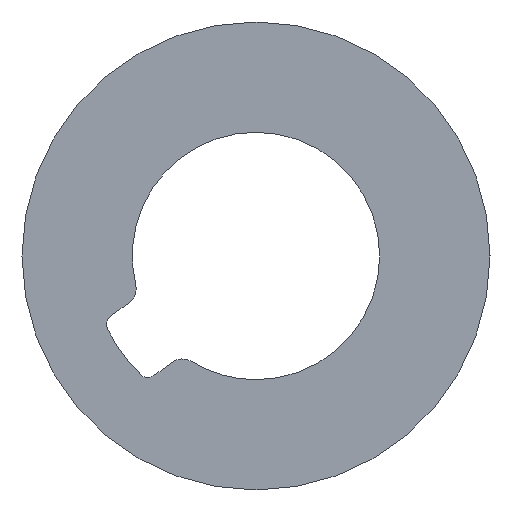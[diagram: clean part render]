
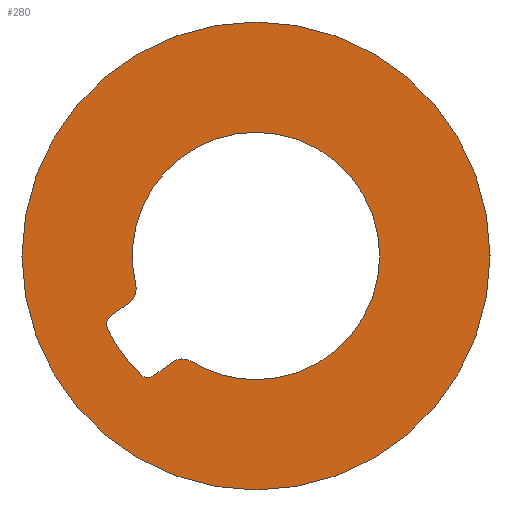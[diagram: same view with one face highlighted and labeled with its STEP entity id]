
A CAD part, left-side view. The second image highlights one B-rep face of the part: STEP entity #280.
In plain terms, the highlighted planar face has unit normal (-1, 0, 0).
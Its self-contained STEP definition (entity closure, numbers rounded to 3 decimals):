
#26 = AXIS2_PLACEMENT_3D ( 'NONE', #412, #411, #410 ) ;
#27 = AXIS2_PLACEMENT_3D ( 'NONE', #421, #419, #417 ) ;
#34 = AXIS2_PLACEMENT_3D ( 'NONE', #454, #453, #452 ) ;
#36 = AXIS2_PLACEMENT_3D ( 'NONE', #468, #467, #466 ) ;
#38 = AXIS2_PLACEMENT_3D ( 'NONE', #479, #478, #477 ) ;
#40 = AXIS2_PLACEMENT_3D ( 'NONE', #493, #492, #491 ) ;
#42 = AXIS2_PLACEMENT_3D ( 'NONE', #523, #522, #521 ) ;
#43 = AXIS2_PLACEMENT_3D ( 'NONE', #352, #525, #524 ) ;
#44 = AXIS2_PLACEMENT_3D ( 'NONE', #366, #362, #358 ) ;
#45 = AXIS2_PLACEMENT_3D ( 'NONE', #388, #385, #379 ) ;
#47 = AXIS2_PLACEMENT_3D ( 'NONE', #420, #418, #414 ) ;
#48 = AXIS2_PLACEMENT_3D ( 'NONE', #432, #430, #425 ) ;
#49 = EDGE_CURVE ( 'NONE', #465, #451, #230, .T. ) ;
#50 = EDGE_CURVE ( 'NONE', #480, #436, #228, .T. ) ;
#53 = EDGE_CURVE ( 'NONE', #462, #490, #222, .T. ) ;
#54 = EDGE_CURVE ( 'NONE', #490, #507, #223, .T. ) ;
#55 = EDGE_CURVE ( 'NONE', #507, #480, #218, .T. ) ;
#56 = EDGE_CURVE ( 'NONE', #436, #513, #217, .T. ) ;
#57 = EDGE_CURVE ( 'NONE', #513, #447, #215, .T. ) ;
#66 = EDGE_CURVE ( 'NONE', #476, #514, #196, .T. ) ;
#70 = EDGE_CURVE ( 'NONE', #517, #503, #187, .T. ) ;
#73 = EDGE_CURVE ( 'NONE', #451, #517, #183, .T. ) ;
#77 = EDGE_CURVE ( 'NONE', #503, #462, #175, .T. ) ;
#86 = EDGE_CURVE ( 'NONE', #514, #476, #157, .T. ) ;
#87 = EDGE_CURVE ( 'NONE', #447, #465, #158, .T. ) ;
#93 = ORIENTED_EDGE ( 'NONE', *, *, #87, .T. ) ;
#94 = ORIENTED_EDGE ( 'NONE', *, *, #66, .F. ) ;
#95 = ORIENTED_EDGE ( 'NONE', *, *, #86, .F. ) ;
#96 = ORIENTED_EDGE ( 'NONE', *, *, #49, .T. ) ;
#97 = ORIENTED_EDGE ( 'NONE', *, *, #70, .T. ) ;
#98 = ORIENTED_EDGE ( 'NONE', *, *, #73, .T. ) ;
#105 = ORIENTED_EDGE ( 'NONE', *, *, #54, .T. ) ;
#106 = ORIENTED_EDGE ( 'NONE', *, *, #53, .T. ) ;
#107 = ORIENTED_EDGE ( 'NONE', *, *, #77, .T. ) ;
#108 = ORIENTED_EDGE ( 'NONE', *, *, #56, .T. ) ;
#109 = ORIENTED_EDGE ( 'NONE', *, *, #50, .T. ) ;
#111 = ORIENTED_EDGE ( 'NONE', *, *, #55, .T. ) ;
#112 = ORIENTED_EDGE ( 'NONE', *, *, #57, .T. ) ;
#154 = FACE_BOUND ( 'NONE', #235, .T. ) ;
#155 = FACE_OUTER_BOUND ( 'NONE', #236, .T. ) ;
#156 = VECTOR ( 'NONE', #415, 1000. ) ;
#157 = CIRCLE ( 'NONE', #27, 7. ) ;
#158 = LINE ( 'NONE', #416, #156 ) ;
#175 = CIRCLE ( 'NONE', #34, 3.7 ) ;
#183 = CIRCLE ( 'NONE', #36, 3.7 ) ;
#187 = CIRCLE ( 'NONE', #38, 3.7 ) ;
#196 = CIRCLE ( 'NONE', #40, 7. ) ;
#215 = CIRCLE ( 'NONE', #42, 0.3 ) ;
#217 = CIRCLE ( 'NONE', #43, 4.95 ) ;
#218 = CIRCLE ( 'NONE', #44, 0.3 ) ;
#221 = VECTOR ( 'NONE', #371, 1000. ) ;
#222 = CIRCLE ( 'NONE', #45, 0.5 ) ;
#223 = LINE ( 'NONE', #374, #221 ) ;
#228 = CIRCLE ( 'NONE', #47, 0.3 ) ;
#230 = CIRCLE ( 'NONE', #48, 0.5 ) ;
#235 = EDGE_LOOP ( 'NONE', ( #93, #96, #98, #97, #107, #106, #105, #111, #109, #108, #112 ) ) ;
#236 = EDGE_LOOP ( 'NONE', ( #95, #94 ) ) ;
#280 = ADVANCED_FACE ( 'NONE', ( #155, #154 ), #413, .F. ) ;
#317 = CARTESIAN_POINT ( 'NONE',  ( -189.5, 0., 3.7 ) ) ;
#318 = CARTESIAN_POINT ( 'NONE',  ( -189.5, 0., 7. ) ) ;
#319 = CARTESIAN_POINT ( 'NONE',  ( -189.5, 4.445, -2.177 ) ) ;
#321 = CARTESIAN_POINT ( 'NONE',  ( -189.5, 3.059, -3.582 ) ) ;
#322 = CARTESIAN_POINT ( 'NONE',  ( -189.5, 0., -3.7 ) ) ;
#327 = CARTESIAN_POINT ( 'NONE',  ( -189.5, 2.495, -3.172 ) ) ;
#330 = CARTESIAN_POINT ( 'NONE',  ( -189.5, 3.236, -3.64 ) ) ;
#331 = CARTESIAN_POINT ( 'NONE',  ( -189.5, 0., -7. ) ) ;
#334 = CARTESIAN_POINT ( 'NONE',  ( -189.5, 3.788, -1.393 ) ) ;
#335 = CARTESIAN_POINT ( 'NONE',  ( -189.5, 1.939, -3.151 ) ) ;
#338 = CARTESIAN_POINT ( 'NONE',  ( -189.5, 3.596, -0.87 ) ) ;
#339 = CARTESIAN_POINT ( 'NONE',  ( -189.5, 4.352, -1.803 ) ) ;
#342 = CARTESIAN_POINT ( 'NONE',  ( -189.5, 3.444, -3.555 ) ) ;
#352 = CARTESIAN_POINT ( 'NONE',  ( -189.5, 0., 0. ) ) ;
#358 = DIRECTION ( 'NONE',  ( 0., 0., 1. ) ) ;
#362 = DIRECTION ( 'NONE',  ( 1., 0., 0. ) ) ;
#366 = CARTESIAN_POINT ( 'NONE',  ( -189.5, 3.236, -3.34 ) ) ;
#371 = DIRECTION ( 'NONE',  ( 0., 0.809, -0.588 ) ) ;
#374 = CARTESIAN_POINT ( 'NONE',  ( -189.5, 3.059, -3.582 ) ) ;
#379 = DIRECTION ( 'NONE',  ( 0., 0., -1. ) ) ;
#385 = DIRECTION ( 'NONE',  ( -1., 0., 0. ) ) ;
#388 = CARTESIAN_POINT ( 'NONE',  ( -189.5, 2.201, -3.577 ) ) ;
#410 = DIRECTION ( 'NONE',  ( 0., 0., -1. ) ) ;
#411 = DIRECTION ( 'NONE',  ( 1., 0., 0. ) ) ;
#412 = CARTESIAN_POINT ( 'NONE',  ( -189.5, 0., 0. ) ) ;
#413 = PLANE ( 'NONE',  #26 ) ;
#414 = DIRECTION ( 'NONE',  ( 0., 0., 1. ) ) ;
#415 = DIRECTION ( 'NONE',  ( 0., -0.809, 0.588 ) ) ;
#416 = CARTESIAN_POINT ( 'NONE',  ( -189.5, 3.788, -1.393 ) ) ;
#417 = DIRECTION ( 'NONE',  ( 0., 0., -1. ) ) ;
#418 = DIRECTION ( 'NONE',  ( 1., 0., 0. ) ) ;
#419 = DIRECTION ( 'NONE',  ( 1., 0., 0. ) ) ;
#420 = CARTESIAN_POINT ( 'NONE',  ( -189.5, 3.236, -3.34 ) ) ;
#421 = CARTESIAN_POINT ( 'NONE',  ( -189.5, 0., 0. ) ) ;
#425 = DIRECTION ( 'NONE',  ( 0., 0., 1. ) ) ;
#430 = DIRECTION ( 'NONE',  ( -1., 0., 0. ) ) ;
#432 = CARTESIAN_POINT ( 'NONE',  ( -189.5, 4.082, -0.988 ) ) ;
#436 = VERTEX_POINT ( 'NONE', #342 ) ;
#447 = VERTEX_POINT ( 'NONE', #339 ) ;
#451 = VERTEX_POINT ( 'NONE', #338 ) ;
#452 = DIRECTION ( 'NONE',  ( 0., 0., -1. ) ) ;
#453 = DIRECTION ( 'NONE',  ( 1., 0., 0. ) ) ;
#454 = CARTESIAN_POINT ( 'NONE',  ( -189.5, 0., 0. ) ) ;
#462 = VERTEX_POINT ( 'NONE', #335 ) ;
#465 = VERTEX_POINT ( 'NONE', #334 ) ;
#466 = DIRECTION ( 'NONE',  ( 0., 0., -1. ) ) ;
#467 = DIRECTION ( 'NONE',  ( 1., 0., 0. ) ) ;
#468 = CARTESIAN_POINT ( 'NONE',  ( -189.5, 0., 0. ) ) ;
#476 = VERTEX_POINT ( 'NONE', #331 ) ;
#477 = DIRECTION ( 'NONE',  ( 0., 0., -1. ) ) ;
#478 = DIRECTION ( 'NONE',  ( 1., 0., 0. ) ) ;
#479 = CARTESIAN_POINT ( 'NONE',  ( -189.5, 0., 0. ) ) ;
#480 = VERTEX_POINT ( 'NONE', #330 ) ;
#490 = VERTEX_POINT ( 'NONE', #327 ) ;
#491 = DIRECTION ( 'NONE',  ( 0., 0., -1. ) ) ;
#492 = DIRECTION ( 'NONE',  ( 1., 0., 0. ) ) ;
#493 = CARTESIAN_POINT ( 'NONE',  ( -189.5, 0., 0. ) ) ;
#503 = VERTEX_POINT ( 'NONE', #322 ) ;
#507 = VERTEX_POINT ( 'NONE', #321 ) ;
#513 = VERTEX_POINT ( 'NONE', #319 ) ;
#514 = VERTEX_POINT ( 'NONE', #318 ) ;
#517 = VERTEX_POINT ( 'NONE', #317 ) ;
#521 = DIRECTION ( 'NONE',  ( 0., 0., -1. ) ) ;
#522 = DIRECTION ( 'NONE',  ( 1., 0., 0. ) ) ;
#523 = CARTESIAN_POINT ( 'NONE',  ( -189.5, 4.176, -2.045 ) ) ;
#524 = DIRECTION ( 'NONE',  ( 0., 0., 1. ) ) ;
#525 = DIRECTION ( 'NONE',  ( 1., 0., 0. ) ) ;
